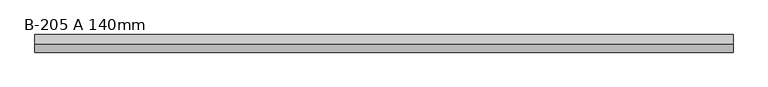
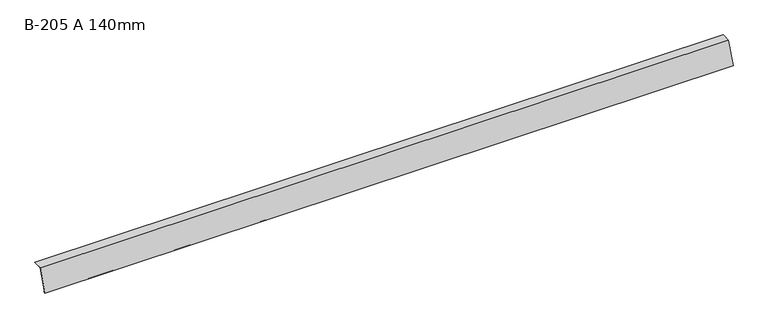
"""IFC4 building model written with IfcOpenShell, lengths in millimetres: proxy geometry, GROVIK_Flashing_Eaves : B-205 A 140mm."""

from ifc_helpers import new_model, si_unit, frame, origin, place, context, project, spatial, polyline, outline, extrude, source, transform, mapped, element, save


def b_205_a_140mm_1e984a72(model_context):
    return source(origin(), model_context, "Body", "SweptSolid", [
        extrude(outline(polyline([(-0.6918582, 0.9880759), (-50.7454363, -129.4059531), (-41.042479, -126.9867341), (-40.8005571, -127.9570299), (-52.3674352, -130.8409765), (-1.3837164, 1.9761518), (53.9568707, 2.9421253), (53.9743231, 1.9422776), (-0.6918582, 0.9880759)])), frame((0.0, 0.0, 0.0), z_axis=(1.0, 0.0, 0.0), x_axis=(0.0, 1.0, 0.0)), (0.0, 0.0, 1.0), 4200.0),
    ])


if __name__ == "__main__":
    model = new_model("IFC4")
    model_context = context("Model", 3, world=origin())
    ifc_project = project(units=[si_unit("LENGTHUNIT", "METRE", prefix="MILLI")], contexts=[model_context])
    site = spatial("IfcSite", under=ifc_project)
    building = spatial("IfcBuilding", under=site)
    placement = place(None, origin())
    b_205_a_140mm_shape = b_205_a_140mm_1e984a72(model_context)
    element("IfcBuildingElementProxy", 1, Name="GROVIK_Flashing_Eaves : B-205 A 140mm", ObjectType="GROVIK_Flashing_Eaves : B-205 A 140mm", at=placement, inside=building, context=model_context, shape_type="MappedRepresentation", body=[
        mapped(b_205_a_140mm_shape, transform((0.0, 0.0, 0.0), x_axis=(1.0, 0.0, 0.0), y_axis=(0.0, 1.0, 0.0), z_axis=(0.0, 0.0, 1.0))),
    ])
    save(model, "model.ifc")
